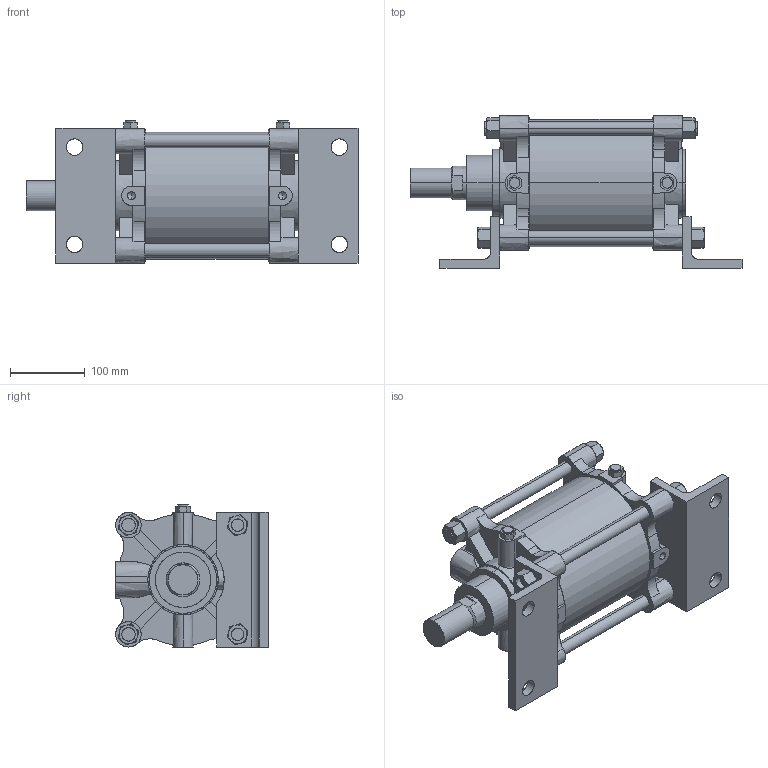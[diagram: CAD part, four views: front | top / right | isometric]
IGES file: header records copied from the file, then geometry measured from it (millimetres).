
Start section: SolidWorks IGES file using analytic representation for surfaces
Global section: file name: C:\Users\Toshiba\Desktop\A##2-160#-100-L.IGS; native system: SolidWorks 2014; preprocessor: SolidWorks 2014; author: Toshiba; date: 160331.145605; units: millimetre
Bounding box: 444 x 204 x 190 mm (x, y, z)
Surface area: 576934.5 mm2 (no closed solid volume)
Topology: 0 solids, 0 shells, 422 faces, 7874 edges, 7862 vertices
Faces by surface type: bspline 264, revolution 158
